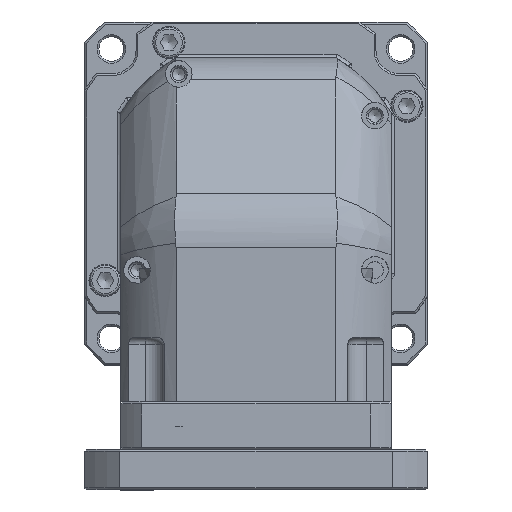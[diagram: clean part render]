
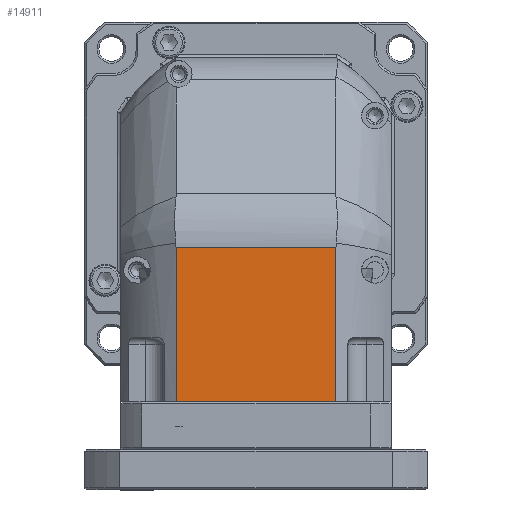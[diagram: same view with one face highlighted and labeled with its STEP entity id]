
A CAD part, top view. The second image highlights one B-rep face of the part: STEP entity #14911.
In plain terms, the highlighted planar face has unit normal (0, 0, 1).
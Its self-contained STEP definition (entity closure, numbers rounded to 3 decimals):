
#12607=CARTESIAN_POINT('',(42.015,-110.,254.4));
#12608=VERTEX_POINT('',#12607);
#12616=CARTESIAN_POINT('',(-42.015,-110.,254.4));
#12617=VERTEX_POINT('',#12616);
#12618=CARTESIAN_POINT('',(-42.015,-110.,254.4));
#12619=DIRECTION('',(1.0,0.0,0.0));
#12620=VECTOR('',#12619,84.03);
#12621=LINE('',#12618,#12620);
#12622=EDGE_CURVE('',#12617,#12608,#12621,.T.);
#13573=CARTESIAN_POINT('',(-42.015,-28.75,254.4));
#13574=VERTEX_POINT('',#13573);
#13582=CARTESIAN_POINT('',(42.015,-28.75,254.4));
#13583=VERTEX_POINT('',#13582);
#13584=CARTESIAN_POINT('',(-42.015,-28.75,254.4));
#13585=DIRECTION('',(1.0,0.0,0.0));
#13586=VECTOR('',#13585,84.03);
#13587=LINE('',#13584,#13586);
#13588=EDGE_CURVE('',#13574,#13583,#13587,.T.);
#13671=CARTESIAN_POINT('',(42.015,-110.,254.4));
#13672=DIRECTION('',(0.0,1.0,0.0));
#13673=VECTOR('',#13672,81.25);
#13674=LINE('',#13671,#13673);
#13675=EDGE_CURVE('',#12608,#13583,#13674,.T.);
#14781=CARTESIAN_POINT('',(-42.015,-28.75,254.4));
#14782=DIRECTION('',(0.0,-1.0,0.0));
#14783=VECTOR('',#14782,81.25);
#14784=LINE('',#14781,#14783);
#14785=EDGE_CURVE('',#13574,#12617,#14784,.T.);
#14900=CARTESIAN_POINT('',(0.,0.,254.4));
#14901=DIRECTION('',(0.0,0.0,-1.0));
#14902=DIRECTION('',(-1.0,0.0,0.0));
#14903=AXIS2_PLACEMENT_3D('',#14900,#14901,#14902);
#14904=PLANE('',#14903);
#14905=ORIENTED_EDGE('',*,*,#12622,.T.);
#14906=ORIENTED_EDGE('',*,*,#13675,.T.);
#14907=ORIENTED_EDGE('',*,*,#13588,.F.);
#14908=ORIENTED_EDGE('',*,*,#14785,.T.);
#14909=EDGE_LOOP('',(#14905,#14906,#14907,#14908));
#14910=FACE_OUTER_BOUND('',#14909,.T.);
#14911=ADVANCED_FACE('',(#14910),#14904,.F.);
